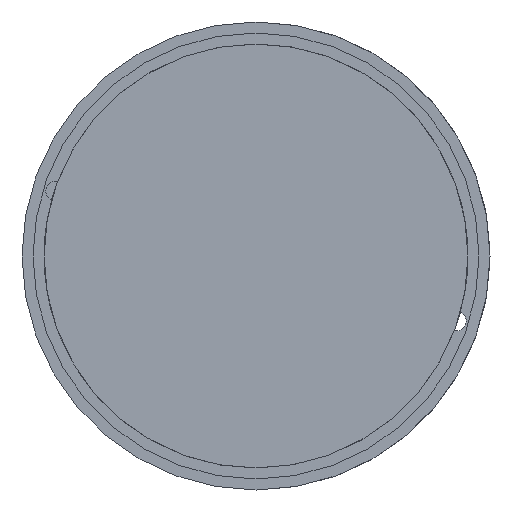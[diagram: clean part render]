
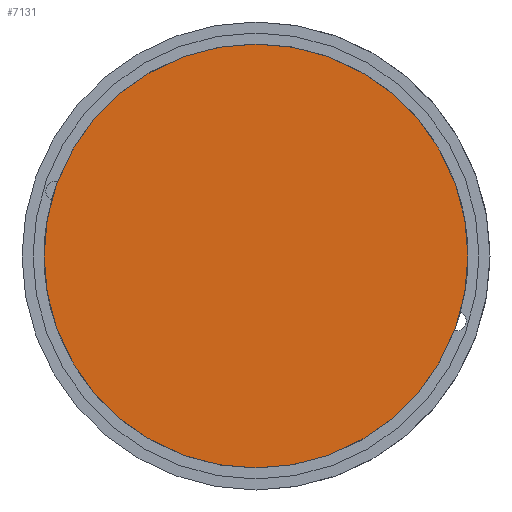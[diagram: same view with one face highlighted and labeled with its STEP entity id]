
A CAD part, front view. The second image highlights one B-rep face of the part: STEP entity #7131.
In plain terms, the highlighted planar face has unit normal (0, -1, 0).
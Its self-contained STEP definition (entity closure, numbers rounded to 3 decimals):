
#149 = DIRECTION ( 'NONE',  ( 0., -1., 0. ) ) ;
#296 = AXIS2_PLACEMENT_3D ( 'NONE', #2185, #4456, #4952 ) ;
#503 = EDGE_LOOP ( 'NONE', ( #7360, #7010 ) ) ;
#625 = AXIS2_PLACEMENT_3D ( 'NONE', #1829, #4208, #820 ) ;
#820 = DIRECTION ( 'NONE',  ( 0., 0., -1. ) ) ;
#1829 = CARTESIAN_POINT ( 'NONE',  ( 0., 0., 0. ) ) ;
#2185 = CARTESIAN_POINT ( 'NONE',  ( 0., 0., 0. ) ) ;
#3477 = FACE_OUTER_BOUND ( 'NONE', #503, .T. ) ;
#3819 = VERTEX_POINT ( 'NONE', #5779 ) ;
#3946 = PLANE ( 'NONE',  #5246 ) ;
#4208 = DIRECTION ( 'NONE',  ( 0., -1., 0. ) ) ;
#4456 = DIRECTION ( 'NONE',  ( 0., -1., 0. ) ) ;
#4536 = EDGE_CURVE ( 'NONE', #5698, #3819, #5682, .T. ) ;
#4601 = CARTESIAN_POINT ( 'NONE',  ( 0., 0., 0. ) ) ;
#4952 = DIRECTION ( 'NONE',  ( 0., 0., -1. ) ) ;
#5088 = EDGE_CURVE ( 'NONE', #3819, #5698, #6772, .T. ) ;
#5246 = AXIS2_PLACEMENT_3D ( 'NONE', #4601, #149, #7137 ) ;
#5682 = CIRCLE ( 'NONE', #625, 77. ) ;
#5698 = VERTEX_POINT ( 'NONE', #5718 ) ;
#5718 = CARTESIAN_POINT ( 'NONE',  ( 0., 0., 77. ) ) ;
#5779 = CARTESIAN_POINT ( 'NONE',  ( 0., 0., -77. ) ) ;
#6772 = CIRCLE ( 'NONE', #296, 77. ) ;
#7010 = ORIENTED_EDGE ( 'NONE', *, *, #4536, .T. ) ;
#7131 = ADVANCED_FACE ( 'NONE', ( #3477 ), #3946, .T. ) ;
#7137 = DIRECTION ( 'NONE',  ( 0., 0., -1. ) ) ;
#7360 = ORIENTED_EDGE ( 'NONE', *, *, #5088, .T. ) ;
